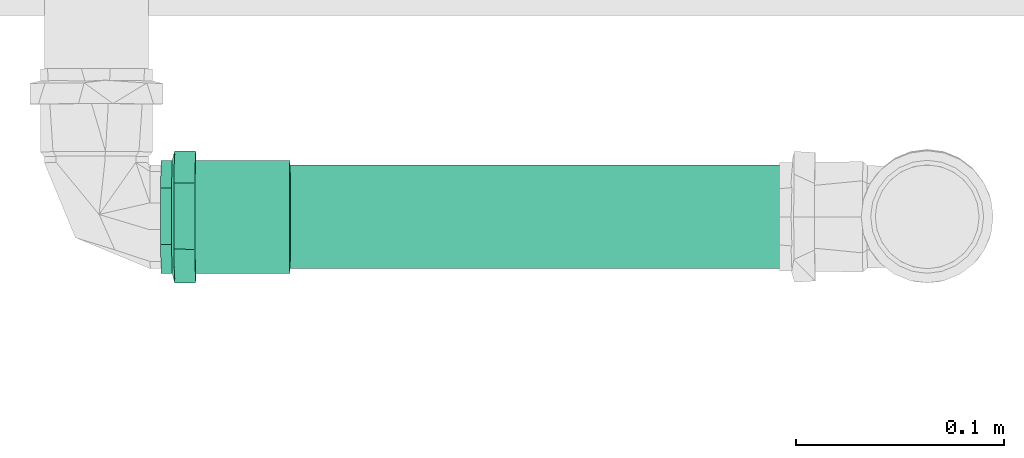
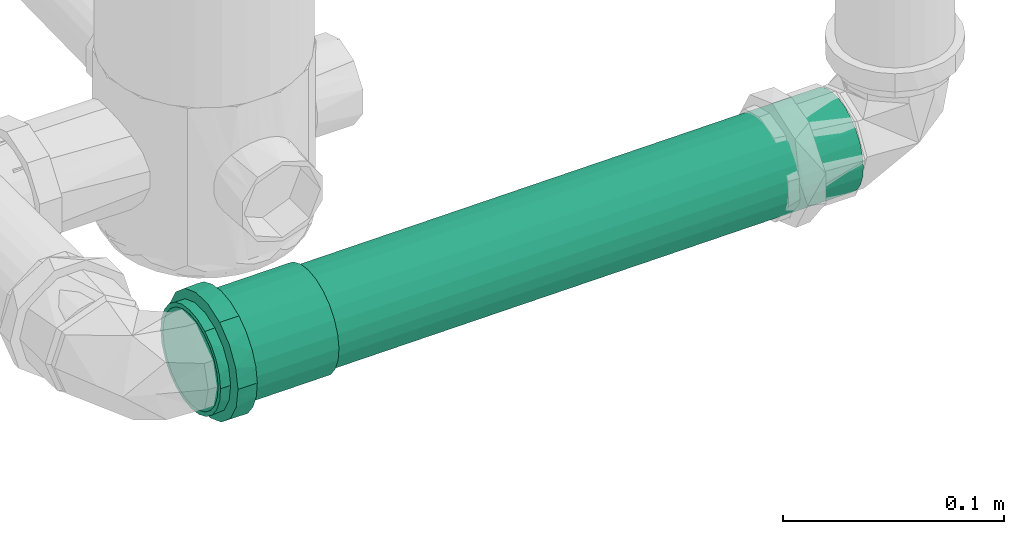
# One storey, part 97 of 589: 1 flow fitting, 1 flow segment.
"""IFC2X3 building model written with IfcOpenShell, lengths in millimetres."""

from ifc_helpers import new_model, entity, si_unit, converted_unit, derived_unit, direction, frame, frame_2d, origin, place, context, subcontext, project, spatial, circle, extrude, faceted_brep, source, transform, mapped, material, type_object, type_shapes, element, save


model = new_model("IFC2X3")

# Units and contexts
model_context = context("Model", 3, precision=0.01, world=origin(), true_north=direction((6.123031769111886e-17, 1.0)))
body_context = subcontext(model_context, "Body", "Model", "MODEL_VIEW")
ifc_project = project(units=[si_unit("LENGTHUNIT", "METRE", prefix="MILLI"), si_unit("AREAUNIT", "SQUARE_METRE"), si_unit("VOLUMEUNIT", "CUBIC_METRE"), converted_unit("PLANEANGLEUNIT", "DEGREE", entity("IfcRatioMeasure", 0.017453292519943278), si_unit("PLANEANGLEUNIT", "RADIAN"), dimensions=[0, 0, 0, 0, 0, 0, 0]), si_unit("MASSUNIT", "GRAM", prefix="KILO"), derived_unit("MASSDENSITYUNIT", [(si_unit("MASSUNIT", "GRAM", prefix="KILO"), 1), (si_unit("LENGTHUNIT", "METRE"), -3)]), derived_unit("IONCONCENTRATIONUNIT", [(si_unit("MASSUNIT", "GRAM", prefix="KILO"), 1), (si_unit("LENGTHUNIT", "METRE"), -3)]), derived_unit("MOMENTOFINERTIAUNIT", [(si_unit("LENGTHUNIT", "METRE"), 4)]), si_unit("TIMEUNIT", "SECOND"), si_unit("FREQUENCYUNIT", "HERTZ"), si_unit("THERMODYNAMICTEMPERATUREUNIT", "DEGREE_CELSIUS"), derived_unit("THERMALTRANSMITTANCEUNIT", [(si_unit("MASSUNIT", "GRAM", prefix="KILO"), 1), (si_unit("THERMODYNAMICTEMPERATUREUNIT", "KELVIN"), -1), (si_unit("TIMEUNIT", "SECOND"), -3)]), derived_unit("THERMALCONDUCTANCEUNIT", [(si_unit("MASSUNIT", "GRAM", prefix="KILO"), 1), (si_unit("THERMODYNAMICTEMPERATUREUNIT", "KELVIN"), -1), (si_unit("TIMEUNIT", "SECOND"), -3), (si_unit("LENGTHUNIT", "METRE"), 1)]), derived_unit("VOLUMETRICFLOWRATEUNIT", [(si_unit("LENGTHUNIT", "METRE"), 3), (si_unit("TIMEUNIT", "SECOND"), -1)]), derived_unit("MASSFLOWRATEUNIT", [(si_unit("MASSUNIT", "GRAM", prefix="KILO"), 1), (si_unit("TIMEUNIT", "SECOND"), -1)]), derived_unit("ROTATIONALFREQUENCYUNIT", [(si_unit("TIMEUNIT", "SECOND"), -1)]), si_unit("ELECTRICCURRENTUNIT", "AMPERE"), si_unit("ELECTRICVOLTAGEUNIT", "VOLT"), si_unit("POWERUNIT", "WATT"), si_unit("FORCEUNIT", "NEWTON", prefix="KILO"), si_unit("ILLUMINANCEUNIT", "LUX"), si_unit("LUMINOUSFLUXUNIT", "LUMEN"), si_unit("LUMINOUSINTENSITYUNIT", "CANDELA"), derived_unit("USERDEFINED", [(si_unit("MASSUNIT", "GRAM", prefix="KILO"), -1), (si_unit("LENGTHUNIT", "METRE"), -2), (si_unit("TIMEUNIT", "SECOND"), 3), (si_unit("LUMINOUSFLUXUNIT", "LUMEN"), 1)]), derived_unit("USERDEFINED", [(si_unit("MASSUNIT", "GRAM", prefix="KILO"), 1), (si_unit("TIMEUNIT", "SECOND"), -3), (si_unit("LENGTHUNIT", "METRE"), 3), (si_unit("ELECTRICCURRENTUNIT", "AMPERE"), -2)]), derived_unit("SOUNDPOWERUNIT", [(si_unit("MASSUNIT", "GRAM", prefix="KILO"), 1), (si_unit("TIMEUNIT", "SECOND"), -3), (si_unit("LENGTHUNIT", "METRE"), 2)]), derived_unit("SOUNDPRESSUREUNIT", [(si_unit("MASSUNIT", "GRAM", prefix="KILO"), 1), (si_unit("LENGTHUNIT", "METRE"), -1), (si_unit("TIMEUNIT", "SECOND"), -2)]), derived_unit("LINEARVELOCITYUNIT", [(si_unit("LENGTHUNIT", "METRE"), 1), (si_unit("TIMEUNIT", "SECOND"), -1)]), si_unit("PRESSUREUNIT", "PASCAL"), derived_unit("USERDEFINED", [(si_unit("MASSUNIT", "GRAM", prefix="KILO"), 1), (si_unit("LENGTHUNIT", "METRE"), -2), (si_unit("TIMEUNIT", "SECOND"), -2)]), derived_unit("LINEARFORCEUNIT", [(si_unit("MASSUNIT", "GRAM", prefix="KILO"), 1), (si_unit("TIMEUNIT", "SECOND"), -2)]), derived_unit("PLANARFORCEUNIT", [(si_unit("MASSUNIT", "GRAM", prefix="KILO"), 1), (si_unit("LENGTHUNIT", "METRE"), -1), (si_unit("TIMEUNIT", "SECOND"), -2)]), derived_unit("SPECIFICHEATCAPACITYUNIT", [(si_unit("THERMODYNAMICTEMPERATUREUNIT", "KELVIN"), -1), (si_unit("LENGTHUNIT", "METRE"), 2), (si_unit("TIMEUNIT", "SECOND"), -2)]), derived_unit("HEATINGVALUEUNIT", [(si_unit("LENGTHUNIT", "METRE"), 2), (si_unit("TIMEUNIT", "SECOND"), -2)]), derived_unit("VAPORPERMEABILITYUNIT", [(si_unit("LENGTHUNIT", "METRE"), -1), (si_unit("TIMEUNIT", "SECOND"), 1)]), derived_unit("DYNAMICVISCOSITYUNIT", [(si_unit("MASSUNIT", "GRAM", prefix="KILO"), 1), (si_unit("TIMEUNIT", "SECOND"), -1), (si_unit("LENGTHUNIT", "METRE"), -1)]), derived_unit("THERMALEXPANSIONCOEFFICIENTUNIT", [(si_unit("THERMODYNAMICTEMPERATUREUNIT", "KELVIN"), -1)]), derived_unit("MODULUSOFELASTICITYUNIT", [(si_unit("MASSUNIT", "GRAM", prefix="KILO"), 1), (si_unit("LENGTHUNIT", "METRE"), -1), (si_unit("TIMEUNIT", "SECOND"), -2)]), derived_unit("ISOTHERMALMOISTURECAPACITYUNIT", [(si_unit("LENGTHUNIT", "METRE"), 3), (si_unit("MASSUNIT", "GRAM", prefix="KILO"), -1)]), derived_unit("MOISTUREDIFFUSIVITYUNIT", [(si_unit("TIMEUNIT", "SECOND"), -1), (si_unit("LENGTHUNIT", "METRE"), 2)])], contexts=[model_context])

# Site, building, storey
site_placement = place(None, origin())
site = spatial("IfcSite", under=ifc_project, at=site_placement, Name="Default", CompositionType="ELEMENT")
building_placement = place(site_placement, origin())
building = spatial("IfcBuilding", under=site, at=building_placement, CompositionType="ELEMENT")
storey_placement = place(building_placement, frame((0.0, 0.0, 100.0)))
storey = spatial("IfcBuildingStorey", under=building, at=storey_placement, Name="TÉRREO", CompositionType="ELEMENT", Elevation=100.0)

# Flow segment
pipe_segment_type = type_object("IfcPipeSegmentType", Name="Tipos de tubos:PVC Esgoto Série Normal", PredefinedType="NOTDEFINED")
flow_segment_placement = place(storey_placement, origin())
element("IfcFlowSegment", 1, at=flow_segment_placement, inside=storey, type_object=pipe_segment_type, Name="Tipos de tubos:PVC Esgoto Série Normal", ObjectType="Tipos de tubos:PVC Esgoto Série Normal", context=body_context, shape_type="SweptSolid", body=[
    extrude(circle(Radius=25.0, at=frame_2d((1.353583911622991e-13, -2.5378429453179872e-14), x_axis=(1.0, 0.0))), frame((-3068.6991038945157, -655.7850719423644, -71.67254314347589), z_axis=(0.9999500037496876, 0.0, 0.009999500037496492), x_axis=(0.0, -1.0, 0.0)), (0.0, 0.0, 1.0), 337.8812991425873),
])

# Flow fitting
ifc_material = material(Name="PVC Série Normal")
pipe_fitting_type = type_object("IfcPipeFittingType", Name="PVC Esgoto_Luva Simples para Conexão_Rodrigo MEP:Standard", PredefinedType="NOTDEFINED", material=ifc_material)
shared_shape = source(origin(), body_context, "Body", "Brep", [
    faceted_brep([(16.599999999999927, 15.900000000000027, -27.53960784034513), (16.599999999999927, 22.485995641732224, -22.485995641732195), (16.599999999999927, 13.599999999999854, -23.555890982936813), (16.599999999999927, 7.039878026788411, -26.273182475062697), (16.599999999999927, 8.2304456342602, -30.71644127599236), (16.599999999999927, 19.233304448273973, -19.233304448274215), (16.599999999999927, 27.539607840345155, -15.899999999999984), (16.599999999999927, 23.55589098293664, -13.600000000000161), (16.599999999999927, 26.273182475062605, -7.03987802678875), (16.599999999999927, 30.716441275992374, -8.230445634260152), (16.599999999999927, 27.2, 0.0), (16.599999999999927, 31.8, 0.0), (16.599999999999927, 26.273182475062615, 7.0398780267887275), (16.599999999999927, 30.71644127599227, 8.23044563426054), (16.599999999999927, 23.555890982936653, 13.60000000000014), (16.599999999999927, 27.539607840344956, 15.900000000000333), (16.599999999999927, 19.233304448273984, 19.2333044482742), (16.599999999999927, 22.485995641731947, 22.48599564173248), (16.599999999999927, 13.599999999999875, 23.555890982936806), (16.599999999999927, 15.899999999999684, 27.53960784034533), (16.599999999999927, 7.039878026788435, 26.27318247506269), (16.599999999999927, 8.230445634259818, 30.716441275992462), (16.599999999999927, 0.0, 27.2), (16.599999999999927, 0.0, 31.8), (16.599999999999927, -7.039878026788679, 26.273182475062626), (16.599999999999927, -8.230445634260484, 30.716441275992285), (16.599999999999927, -13.600000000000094, 23.555890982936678), (16.599999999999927, -15.900000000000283, 27.53960784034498), (16.599999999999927, -19.23330444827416, 19.233304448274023), (16.599999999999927, -22.485995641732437, 22.48599564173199), (16.599999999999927, -23.55589098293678, 13.59999999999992), (16.599999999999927, -27.539607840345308, 15.899999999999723), (16.599999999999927, -30.71644127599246, 8.230445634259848), (16.599999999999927, -26.273182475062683, 7.039878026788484), (16.599999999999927, -31.8, 0.0), (16.599999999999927, -27.2, 0.0), (16.599999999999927, -30.71644127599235, -8.23044563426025), (16.599999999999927, -26.273182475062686, -7.03987802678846), (16.599999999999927, -27.53960784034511, -15.90000000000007), (16.599999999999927, -23.55589098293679, -13.599999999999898), (16.599999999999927, -22.485995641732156, -22.485995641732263), (16.599999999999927, -19.233304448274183, -19.233304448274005), (16.599999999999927, -15.899999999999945, -27.53960784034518), (16.599999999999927, -13.600000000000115, -23.555890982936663), (16.599999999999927, -8.230445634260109, -30.716441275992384), (16.599999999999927, -7.039878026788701, -26.273182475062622), (16.599999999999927, 0.0, -31.8), (16.599999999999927, 0.0, -27.2), (6.500000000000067, -10.708108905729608, 29.429219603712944), (6.500000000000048, -24.359073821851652, 20.44200387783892), (6.500000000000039, -27.120498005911, 15.6595386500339), (6.50000000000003, -29.881922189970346, 10.877073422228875), (6.500000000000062, -15.89769721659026, 27.540937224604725), (6.500000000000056, -20.128385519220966, 23.991470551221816), (6.50000000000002, -30.840961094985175, 5.438536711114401), (6.5000000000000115, -31.8, 0.0), (6.50000000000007, -5.518520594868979, 31.317501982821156), (6.500000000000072, 5.526376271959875, 31.316116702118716), (6.50000000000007, 0.00392783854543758, 31.316809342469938), (6.500000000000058, 20.134403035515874, 23.986420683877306), (6.500000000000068, 10.715490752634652, 29.42653259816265), (6.500000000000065, 15.904605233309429, 27.536948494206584), (6.500000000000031, 29.8846497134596, 10.869577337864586), (6.500000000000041, 27.12442527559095, 15.652735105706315), (6.5000000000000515, 24.364200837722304, 20.435892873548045), (6.5000000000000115, 31.8, 0.0), (6.499999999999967, 24.364200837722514, -20.435892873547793), (6.499999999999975, 27.12442527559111, -15.652735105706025), (6.499999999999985, 29.884649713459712, -10.869577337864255), (6.4999999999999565, 15.904605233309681, -27.53694849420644), (6.499999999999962, 20.134403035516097, -23.986420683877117), (6.499999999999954, 10.715490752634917, -29.42653259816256), (6.499999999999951, 5.526376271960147, -31.31611670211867), (6.499999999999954, -5.518520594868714, -31.317501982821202), (6.499999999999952, 0.003927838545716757, -31.316809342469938), (6.499999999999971, -20.128385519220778, -23.99147055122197), (6.499999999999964, -15.897697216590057, -27.54093722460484), (6.499999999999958, -10.70810890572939, -29.42921960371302), (6.499999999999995, -29.881922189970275, -10.877073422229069), (6.499999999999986, -27.12049800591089, -15.659538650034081), (6.499999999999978, -24.359073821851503, -20.442003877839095), (6.500000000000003, -30.840961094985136, -5.438536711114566), (6.499999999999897, -30.696173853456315, -6.259599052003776), (62.0, 13.600000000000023, -23.55589098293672), (62.0, 19.233304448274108, -19.23330444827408), (62.0, 12.499999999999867, -21.650635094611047), (62.0, 6.470476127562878, -24.14814565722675), (62.0, 7.039878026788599, -26.273182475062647), (62.0, 17.677669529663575, -17.677669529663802), (62.0, 23.55589098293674, -13.599999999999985), (62.0, 21.65063509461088, -12.50000000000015), (62.0, 24.148145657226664, -6.470476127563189), (62.0, 26.27318247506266, -7.039878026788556), (62.0, 25.0, 0.0), (62.0, 27.2, 0.0), (62.0, 24.148145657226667, 6.4704761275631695), (62.0, 26.273182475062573, 7.03987802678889), (62.0, 21.650635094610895, 12.500000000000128), (62.0, 23.555890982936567, 13.600000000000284), (62.0, 17.67766952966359, 17.67766952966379), (62.0, 19.233304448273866, 19.233304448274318), (62.0, 12.499999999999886, 21.650635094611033), (62.0, 13.59999999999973, 23.55589098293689), (62.0, 6.4704761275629, 24.14814565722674), (62.0, 7.039878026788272, 26.273182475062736), (62.0, 0.0, 25.0), (62.0, 0.0, 27.2), (62.0, -6.470476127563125, 24.148145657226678), (62.0, -7.039878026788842, 26.273182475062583), (62.0, -12.500000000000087, 21.650635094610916), (62.0, -13.600000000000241, 23.555890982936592), (62.0, -17.677669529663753, 17.677669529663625), (62.0, -19.233304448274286, 19.2333044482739), (62.0, -21.65063509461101, 12.499999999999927), (62.0, -23.555890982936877, 13.599999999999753), (62.0, -26.27318247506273, 7.039878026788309), (62.0, -24.14814565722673, 6.470476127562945), (62.0, -27.2, 0.0), (62.0, -25.0, 0.0), (62.0, -26.27318247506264, -7.0398780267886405), (62.0, -24.148145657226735, -6.470476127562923), (62.0, -23.5558909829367, -13.600000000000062), (62.0, -21.650635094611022, -12.499999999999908), (62.0, -19.233304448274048, -19.233304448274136), (62.0, -17.67766952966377, -17.677669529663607), (62.0, -13.599999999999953, -23.555890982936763), (62.0, -12.500000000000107, -21.650635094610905), (62.0, -7.039878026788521, -26.27318247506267), (62.0, -6.470476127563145, -24.148145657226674), (62.0, 0.0, -27.2), (62.0, 0.0, -25.0), (0.0, 12.499999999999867, -21.650635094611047), (0.0, 19.233304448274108, -19.23330444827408), (0.0, 13.600000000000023, -23.55589098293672), (0.0, 6.470476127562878, -24.14814565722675), (0.0, 17.677669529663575, -17.677669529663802), (0.0, 23.55589098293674, -13.599999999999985), (0.0, 21.65063509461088, -12.50000000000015), (0.0, 24.148145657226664, -6.470476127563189), (0.0, 26.27318247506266, -7.039878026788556), (0.0, 25.0, 0.0), (0.0, 27.2, 0.0), (0.0, 24.148145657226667, 6.4704761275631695), (0.0, 26.273182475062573, 7.03987802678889), (0.0, 21.650635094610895, 12.500000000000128), (0.0, 23.555890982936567, 13.600000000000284), (0.0, 17.67766952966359, 17.67766952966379), (0.0, 19.233304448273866, 19.233304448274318), (0.0, 12.499999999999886, 21.650635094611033), (0.0, 13.59999999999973, 23.55589098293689), (0.0, 6.4704761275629, 24.14814565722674), (0.0, 7.039878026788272, 26.273182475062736), (0.0, 0.0, 25.0), (0.0, 0.0, 27.2), (0.0, -6.470476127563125, 24.148145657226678), (0.0, -7.039878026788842, 26.273182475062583), (0.0, -12.500000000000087, 21.650635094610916), (0.0, -13.600000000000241, 23.555890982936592), (0.0, -17.677669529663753, 17.677669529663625), (0.0, -19.233304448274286, 19.2333044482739), (0.0, -21.65063509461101, 12.499999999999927), (0.0, -23.555890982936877, 13.599999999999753), (0.0, -26.27318247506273, 7.039878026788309), (0.0, -24.14814565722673, 6.470476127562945), (0.0, -27.2, 0.0), (0.0, -25.0, 0.0), (0.0, -26.27318247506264, -7.0398780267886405), (0.0, -24.148145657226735, -6.470476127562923), (0.0, -23.5558909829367, -13.600000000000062), (0.0, -21.650635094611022, -12.499999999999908), (0.0, -19.233304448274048, -19.233304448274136), (0.0, -17.67766952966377, -17.677669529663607), (0.0, -13.599999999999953, -23.555890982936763), (0.0, -12.500000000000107, -21.650635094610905), (0.0, -7.039878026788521, -26.27318247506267), (0.0, -6.470476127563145, -24.148145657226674), (0.0, 0.0, -27.2), (0.0, 0.0, -25.0), (0.0, 7.039878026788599, -26.273182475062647), (5.300000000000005, -26.37968999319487, 4.651830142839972), (5.299999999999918, -26.25584678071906, 5.354122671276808), (5.300000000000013, -25.559379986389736, 9.303660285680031), (5.300000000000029, -20.835434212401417, 17.48498444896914), (5.300000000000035, -17.216732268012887, 20.521006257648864), (5.300000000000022, -23.19740709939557, 13.394322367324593), (5.3000000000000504, -4.720244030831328, 26.787297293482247), (5.300000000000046, -9.15913717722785, 25.172162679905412), (5.299999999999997, -27.2, 0.0), (5.300000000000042, -13.598030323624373, 23.557028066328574), (5.300000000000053, 9.165451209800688, 25.169864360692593), (5.300000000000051, 13.603939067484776, 23.55361632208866), (5.300000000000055, 4.7269633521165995, 26.786112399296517), (5.300000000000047, 17.221879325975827, 20.516686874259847), (5.300000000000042, 20.839819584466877, 17.479757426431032), (5.3000000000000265, 25.56171296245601, 9.297248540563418), (5.299999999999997, 27.2, 0.0), (5.3000000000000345, 23.20076627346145, 13.388502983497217), (5.300000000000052, 0.003359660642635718, 26.786704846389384), (5.299999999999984, 25.56171296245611, -9.29724854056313), (5.299999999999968, 20.839819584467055, -17.47975742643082), (5.2999999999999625, 17.22187932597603, -20.516686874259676), (5.299999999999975, 23.200766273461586, -13.388502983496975), (5.299999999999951, 4.726963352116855, -26.78611239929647), (5.2999999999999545, 9.165451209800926, -25.169864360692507), (5.299999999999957, 13.603939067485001, -23.553616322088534), (5.29999999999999, -26.379689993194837, -4.651830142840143), (5.299999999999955, -9.159137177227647, -25.17216267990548), (5.299999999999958, -13.5980303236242, -23.55702806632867), (5.299999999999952, -4.720244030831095, -26.787297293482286), (5.299999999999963, -17.216732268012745, -20.52100625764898), (5.299999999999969, -20.83543421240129, -17.484984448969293), (5.299999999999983, -25.559379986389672, -9.303660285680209), (5.299999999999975, -23.197407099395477, -13.394322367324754), (5.299999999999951, 0.003359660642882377, -26.78670484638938), (39.0, -25.0, 0.0), (39.0, 25.0, 0.0)], [[[0, 1, 2]], [[0, 2, 3]], [[3, 4, 0]], [[2, 1, 5]], [[6, 5, 1]], [[7, 5, 6]], [[8, 7, 6]], [[8, 6, 9]], [[8, 9, 10]], [[10, 9, 11]], [[12, 10, 11]], [[12, 11, 13]], [[14, 12, 13]], [[14, 13, 15]], [[16, 14, 15]], [[15, 17, 16]], [[17, 18, 16]], [[17, 19, 18]], [[18, 19, 20]], [[21, 20, 19]], [[20, 21, 22]], [[22, 21, 23]], [[22, 23, 24]], [[24, 23, 25]], [[24, 25, 26]], [[27, 26, 25]], [[27, 28, 26]], [[28, 27, 29]], [[30, 28, 29]], [[31, 30, 29]], [[32, 30, 31]], [[33, 30, 32]], [[33, 32, 34]], [[35, 33, 34]], [[36, 35, 34]], [[36, 37, 35]], [[37, 36, 38]], [[39, 37, 38]], [[39, 38, 40]], [[39, 40, 41]], [[40, 42, 41]], [[41, 42, 43]], [[43, 42, 44]], [[44, 45, 43]], [[46, 45, 44]], [[4, 47, 46]], [[46, 47, 45]], [[4, 3, 47]], [[48, 27, 25]], [[31, 29, 49]], [[31, 49, 50, 51]], [[52, 53, 27]], [[32, 51, 54]], [[54, 55, 34]], [[54, 34, 32]], [[25, 56, 48]], [[49, 29, 53]], [[23, 57, 58, 56]], [[59, 19, 17]], [[27, 53, 29]], [[48, 52, 27]], [[31, 51, 32]], [[57, 23, 21]], [[60, 19, 61]], [[15, 62, 63, 64]], [[19, 60, 21]], [[15, 13, 62]], [[17, 64, 59]], [[57, 21, 60]], [[23, 56, 25]], [[15, 64, 17]], [[13, 65, 62]], [[13, 11, 65]], [[59, 61, 19]], [[65, 11, 9]], [[6, 1, 66]], [[6, 66, 67, 68]], [[69, 70, 0]], [[68, 65, 9]], [[71, 69, 0]], [[71, 0, 4]], [[4, 72, 71]], [[66, 1, 70]], [[46, 73, 74, 72]], [[75, 76, 42]], [[0, 70, 1]], [[75, 42, 40]], [[6, 68, 9]], [[73, 46, 44]], [[77, 42, 76]], [[38, 78, 79, 80]], [[42, 77, 44]], [[38, 36, 78]], [[40, 80, 75]], [[73, 44, 77]], [[46, 72, 4]], [[38, 80, 40]], [[36, 81, 82, 78]], [[55, 81, 34]], [[34, 81, 36]], [[83, 84, 85]], [[83, 85, 86]], [[86, 87, 83]], [[85, 84, 88]], [[89, 88, 84]], [[88, 89, 90]], [[90, 89, 91]], [[92, 91, 89]], [[92, 93, 91]], [[93, 92, 94]], [[95, 93, 94]], [[94, 96, 95]], [[95, 96, 97]], [[98, 97, 96]], [[97, 98, 99]], [[99, 98, 100]], [[101, 99, 100]], [[100, 102, 101]], [[101, 102, 103]], [[104, 103, 102]], [[103, 104, 105]], [[105, 104, 106]], [[105, 106, 107]], [[107, 106, 108]], [[107, 108, 109]], [[110, 109, 108]], [[110, 111, 109]], [[111, 110, 112]], [[112, 113, 111]], [[114, 113, 112]], [[113, 114, 115]], [[115, 116, 113]], [[117, 116, 115]], [[117, 118, 116]], [[119, 118, 117]], [[119, 120, 118]], [[120, 119, 121]], [[121, 122, 120]], [[122, 121, 123]], [[122, 123, 124]], [[123, 125, 124]], [[124, 125, 126]], [[126, 125, 127]], [[127, 128, 126]], [[129, 128, 127]], [[87, 130, 129]], [[129, 130, 128]], [[87, 86, 130]], [[131, 132, 133]], [[134, 131, 133]], [[135, 132, 131]], [[132, 135, 136]], [[137, 136, 135]], [[138, 136, 137]], [[136, 138, 139]], [[138, 140, 139]], [[141, 139, 140]], [[141, 140, 142]], [[142, 143, 141]], [[144, 143, 142]], [[143, 144, 145]], [[146, 145, 144]], [[147, 145, 146]], [[147, 146, 148]], [[148, 149, 147]], [[150, 149, 148]], [[149, 150, 151]], [[152, 151, 150]], [[153, 151, 152]], [[154, 153, 152]], [[155, 153, 154]], [[156, 155, 154]], [[155, 156, 157]], [[156, 158, 157]], [[159, 157, 158]], [[158, 160, 159]], [[159, 160, 161]], [[162, 161, 160]], [[160, 163, 162]], [[162, 163, 164]], [[163, 165, 164]], [[164, 165, 166]], [[165, 167, 166]], [[168, 166, 167]], [[167, 169, 168]], [[170, 168, 169]], [[171, 170, 169]], [[171, 172, 170]], [[173, 172, 171]], [[174, 172, 173]], [[173, 175, 174]], [[174, 175, 176]], [[175, 177, 176]], [[177, 134, 178]], [[176, 177, 178]], [[133, 178, 134]], [[162, 179, 180, 181]], [[159, 182, 183]], [[182, 161, 181, 184]], [[185, 155, 186]], [[161, 162, 181]], [[187, 179, 164]], [[183, 188, 157]], [[183, 157, 159]], [[161, 182, 159]], [[189, 190, 149]], [[189, 149, 151]], [[157, 188, 186]], [[157, 186, 155]], [[153, 155, 185]], [[164, 179, 162]], [[151, 191, 189]], [[147, 192, 193]], [[143, 194, 195]], [[194, 145, 193, 196]], [[143, 195, 141]], [[10, 12, 96, 94]], [[149, 192, 147]], [[153, 185, 197, 191]], [[153, 191, 151]], [[145, 147, 193]], [[190, 192, 149]], [[145, 194, 143]], [[139, 195, 198]], [[132, 199, 200]], [[199, 136, 198, 201]], [[202, 178, 203]], [[136, 139, 198]], [[139, 141, 195]], [[92, 8, 10, 94]], [[133, 203, 178]], [[200, 204, 133]], [[136, 199, 132]], [[205, 164, 166]], [[206, 207, 172]], [[133, 204, 203]], [[206, 172, 174]], [[176, 178, 202]], [[200, 133, 132]], [[174, 208, 206]], [[170, 209, 210]], [[166, 211, 205]], [[211, 168, 210, 212]], [[168, 211, 166]], [[172, 209, 170]], [[176, 202, 213, 208]], [[176, 208, 174]], [[168, 170, 210]], [[207, 209, 172]], [[205, 187, 164]], [[116, 118, 214, 165, 163]], [[156, 109, 111, 158]], [[111, 113, 160, 158]], [[113, 116, 163, 160]], [[107, 109, 156, 154]], [[154, 152, 105, 107]], [[103, 105, 152, 150]], [[103, 150, 148, 101]], [[142, 95, 97, 144]], [[97, 99, 146, 144]], [[99, 101, 148, 146]], [[93, 95, 142, 140, 215]], [[215, 140, 138, 91, 93]], [[135, 131, 85, 88]], [[90, 91, 138, 137]], [[90, 137, 135, 88]], [[86, 85, 131, 134]], [[134, 177, 130, 86]], [[128, 130, 177, 175]], [[128, 175, 173, 126]], [[167, 120, 122, 169]], [[122, 124, 171, 169]], [[124, 126, 173, 171]], [[118, 120, 167, 165, 214]], [[211, 78, 82, 81, 55, 187, 205]], [[79, 78, 211, 212, 210, 80]], [[75, 80, 210, 209, 207, 76]], [[207, 206, 208, 73, 77, 76]], [[213, 202, 72, 74, 73, 208]], [[203, 204, 69, 71, 72, 202]], [[198, 195, 65, 68]], [[199, 201, 198, 68, 67, 66]], [[204, 200, 199, 66, 70, 69]], [[195, 194, 62, 65]], [[197, 185, 56, 58, 57, 191]], [[63, 62, 194, 196, 193, 64]], [[57, 60, 61, 190, 189, 191]], [[193, 192, 190, 61, 59, 64]], [[48, 56, 185, 186, 188, 52]], [[187, 55, 54, 51, 181, 180, 179]], [[182, 184, 181, 51, 50, 49]], [[188, 183, 182, 49, 53, 52]], [[30, 33, 115, 114]], [[117, 115, 33, 35]], [[26, 28, 112, 110]], [[114, 112, 28, 30]], [[24, 26, 110, 108]], [[108, 106, 22, 24]], [[18, 20, 104, 102]], [[100, 16, 18, 102]], [[12, 14, 98, 96]], [[100, 98, 14, 16]], [[104, 20, 22, 106]], [[89, 7, 8, 92]], [[83, 87, 3, 2]], [[7, 89, 84, 5]], [[83, 2, 5, 84]], [[87, 129, 47, 3]], [[43, 45, 127, 125]], [[123, 41, 43, 125]], [[37, 39, 121, 119]], [[123, 121, 39, 41]], [[35, 37, 119, 117]], [[127, 45, 47, 129]]]),
])
type_shapes(pipe_fitting_type, [shared_shape])
flow_fitting_placement = place(storey_placement, frame((-3068.6991038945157, -655.7850719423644, -71.67254314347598), z_axis=(-0.009999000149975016, 0.009999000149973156, 0.9999000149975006), x_axis=(0.9999500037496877, 0.0, 0.009999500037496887)))
element("IfcFlowFitting", 2, at=flow_fitting_placement, inside=storey, type_object=pipe_fitting_type, material=ifc_material, Name="PVC Esgoto_Luva Simples para Conexão_Rodrigo MEP:Standard", ObjectType="PVC Esgoto_Luva Simples para Conexão_Rodrigo MEP:Standard", context=body_context, shape_type="MappedRepresentation", body=[
    mapped(shared_shape, transform((0.0, 0.0, 0.0), scale=1.0)),
])

save(model, "model.ifc")
